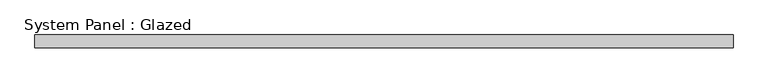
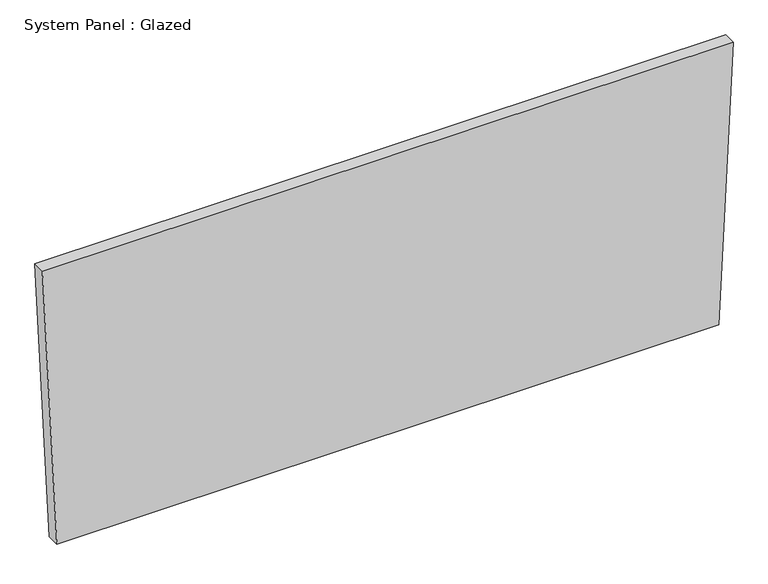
"""IFC4 building model written with IfcOpenShell, lengths in millimetres: plate geometry, System Panel : Glazed."""

import ifcopenshell
import ifcopenshell.guid

model = None  # the IFC model being written
_history = None  # IfcOwnerHistory: only IFC2X3 demands one
_inside = {}  # id of a spatial element -> (the spatial element, [elements in it])
_under = {}  # id of a project, library or spatial element -> (it, [spatial elements below it])
_declared = {}  # id of a project -> (the project, [libraries it declares])
_typed = {}  # id of a type object -> (the type object, [elements of that type])
_made_of = {}  # id of a material, layer set ... -> (it, [elements and type objects made of it])


def new_model(schema):
    """Start an empty IFC model of exactly this schema.

    Asked for "IFC4X3", IfcOpenShell would pick the latest addendum, in which some entities
    have other attributes; the version numbers below select the first issue.
    IFC2X3 requires an IfcOwnerHistory on every rooted entity: one is made here for all.
    """
    global model, _history
    if schema == "IFC4X3":
        model = ifcopenshell.file(schema_version=(4, 3, 0, 0))
    else:
        model = ifcopenshell.file(schema=schema)
    _inside.clear()
    _under.clear()
    _declared.clear()
    _typed.clear()
    _made_of.clear()
    _history = None
    if model.schema == "IFC2X3":
        org = make("IfcOrganization", Name="unknown")
        user = make(
            "IfcPersonAndOrganization",
            ThePerson=make("IfcPerson", FamilyName="unknown"),
            TheOrganization=org,
        )
        app = make(
            "IfcApplication",
            ApplicationDeveloper=org,
            Version="unknown",
            ApplicationFullName="unknown",
            ApplicationIdentifier="unknown",
        )
        _history = make(
            "IfcOwnerHistory",
            OwningUser=user,
            OwningApplication=app,
            ChangeAction="ADDED",
            CreationDate=0,
        )
    return model


def make(cls, **values):
    """One entity of the class cls with the attributes given. An attribute that is None is left unset."""
    return model.create_entity(
        cls, **{name: value for name, value in values.items() if value is not None}
    )


def rooted(cls, **values):
    """An entity with a GlobalId (a new one), such as an element, a storey or a relation."""
    return make(cls, GlobalId=ifcopenshell.guid.new(), OwnerHistory=_history, **values)


def si_unit(unit_type, name, prefix=None):
    """IfcSIUnit, for example si_unit("LENGTHUNIT", "METRE", prefix="MILLI")."""
    return make("IfcSIUnit", UnitType=unit_type, Prefix=prefix, Name=name)


def assignment(units):
    """IfcUnitAssignment: the units of a project."""
    return None if units is None else make("IfcUnitAssignment", Units=units)


def point(xyz):
    """IfcCartesianPoint."""
    return None if xyz is None else make("IfcCartesianPoint", Coordinates=xyz)


def direction(xyz):
    """IfcDirection."""
    return None if xyz is None else make("IfcDirection", DirectionRatios=xyz)


def frame(location, z_axis=None, x_axis=None):
    """IfcAxis2Placement3D, a coordinate frame: its origin and axes. An axis left out is left unset."""
    return make(
        "IfcAxis2Placement3D",
        Location=point(location),
        Axis=direction(z_axis),
        RefDirection=direction(x_axis),
    )


def origin():
    """The frame at (0, 0, 0) with its axes left unset."""
    return frame((0.0, 0.0, 0.0))


def place(relative_to, where):
    """IfcLocalPlacement: puts the frame where relative to a parent placement (None: the world)."""
    return make(
        "IfcLocalPlacement", PlacementRelTo=relative_to, RelativePlacement=where
    )


def context(
    kind, dimensions, precision=None, world=None, true_north=None, identifier=None
):
    """IfcGeometricRepresentationContext, for example the 3D "Model" context."""
    return make(
        "IfcGeometricRepresentationContext",
        ContextIdentifier=identifier,
        ContextType=kind,
        CoordinateSpaceDimension=dimensions,
        Precision=precision,
        WorldCoordinateSystem=world,
        TrueNorth=true_north,
    )


def project(units=None, contexts=None):
    """IfcProject with its units and contexts."""
    return rooted(
        "IfcProject",
        Name="project",
        RepresentationContexts=contexts,
        UnitsInContext=assignment(units),
    )


def spatial(cls, under=None, at=None, **own):
    """A site, building, storey or space (cls), placed at a placement, below another one or the project."""
    s = rooted(cls, ObjectPlacement=at, **own)
    if under is not None:
        _under.setdefault(under.id(), (under, []))[1].append(s)
    return s


def polyline(points):
    """IfcPolyline through the points."""
    return make("IfcPolyline", Points=[point(p) for p in points])


def outline(outer, holes=None, kind="AREA"):
    """IfcArbitraryClosedProfileDef: a profile drawn as a closed curve; with holes, ...WithVoids."""
    if holes is None:
        return make("IfcArbitraryClosedProfileDef", ProfileType=kind, OuterCurve=outer)
    return make(
        "IfcArbitraryProfileDefWithVoids",
        ProfileType=kind,
        OuterCurve=outer,
        InnerCurves=holes,
    )


def extrude(swept, where, along, depth):
    """IfcExtrudedAreaSolid: the profile swept, set in the frame where, extruded along a direction by depth."""
    return make(
        "IfcExtrudedAreaSolid",
        SweptArea=swept,
        Position=where,
        ExtrudedDirection=direction(along),
        Depth=depth,
    )


def shape(context_of_items, identifier, shape_type, items):
    """IfcShapeRepresentation: the items that make up one representation, for example the "Body"."""
    return make(
        "IfcShapeRepresentation",
        ContextOfItems=context_of_items,
        RepresentationIdentifier=identifier,
        RepresentationType=shape_type,
        Items=items,
    )


def source(mapping_origin, context_of_items, identifier, shape_type, items):
    """IfcRepresentationMap: a shape defined once, which mapped items show again and again."""
    return make(
        "IfcRepresentationMap",
        MappingOrigin=mapping_origin,
        MappedRepresentation=shape(context_of_items, identifier, shape_type, items),
    )


def transform(
    local_origin,
    x_axis=None,
    y_axis=None,
    z_axis=None,
    scale=None,
    scale2=None,
    scale3=None,
    uniform=True,
):
    """IfcCartesianTransformationOperator3D, or its non-uniform kind. x_axis, y_axis, z_axis: its Axis1, 2, 3."""
    if uniform:
        return make(
            "IfcCartesianTransformationOperator3D",
            Axis1=direction(x_axis),
            Axis2=direction(y_axis),
            LocalOrigin=point(local_origin),
            Scale=scale,
            Axis3=direction(z_axis),
        )
    return make(
        "IfcCartesianTransformationOperator3DnonUniform",
        Axis1=direction(x_axis),
        Axis2=direction(y_axis),
        LocalOrigin=point(local_origin),
        Scale=scale,
        Axis3=direction(z_axis),
        Scale2=scale2,
        Scale3=scale3,
    )


def mapped(mapping_source, mapping_target):
    """IfcMappedItem: shows the shape of a source again, moved by a transform."""
    return make(
        "IfcMappedItem", MappingSource=mapping_source, MappingTarget=mapping_target
    )


def made_of(thing, what):
    """Note that an element or type object is made of a material, layer set ...; save() writes the relation."""
    if what is not None:
        _made_of.setdefault(what.id(), (what, []))[1].append(thing)
    return thing


def element(
    cls,
    number,
    at=None,
    inside=None,
    cuts=None,
    type_object=None,
    material=None,
    context=None,
    identifier="Body",
    shape_type=None,
    held_by="IfcProductDefinitionShape",
    body=None,
    shapes=None,
    **own,
):
    """One element of the class cls, such as IfcWall. Its Tag is "e" and its number.

    at: its placement. inside: the storey or other place that contains it. cuts: it is an
    opening in that element (IfcRelVoidsElement). A single representation is given by context,
    identifier, shape_type and body (its items); several are given by shapes. held_by: the class
    of the entity that holds the representations. save() writes the other relations.
    """
    e = rooted(cls, Tag="e%d" % number, ObjectPlacement=at, **own)
    if body is not None:
        shapes = [shape(context, identifier, shape_type, body)]
    if shapes is not None:
        e.Representation = make(held_by, Representations=shapes)
    if inside is not None:
        _inside.setdefault(inside.id(), (inside, []))[1].append(e)
    if cuts is not None:
        rooted(
            "IfcRelVoidsElement", RelatingBuildingElement=cuts, RelatedOpeningElement=e
        )
    if type_object is not None:
        _typed.setdefault(type_object.id(), (type_object, []))[1].append(e)
    return made_of(e, material)


def aggregate(whole, parts):
    """IfcRelAggregates: a whole, such as a stair, and the parts it consists of."""
    return rooted("IfcRelAggregates", RelatingObject=whole, RelatedObjects=parts)


def save(model, path):
    """Write the relations noted so far, then the file.

    IfcRelAggregates (storeys below a building ...), IfcRelContainedInSpatialStructure (elements
    in a storey), IfcRelDefinesByType, IfcRelAssociatesMaterial and IfcRelDeclares: one each for
    every whole, place, type object, material and project.
    """
    for whole, parts in _under.values():
        aggregate(whole, parts)
    for where, things in _inside.values():
        rooted(
            "IfcRelContainedInSpatialStructure",
            RelatedElements=things,
            RelatingStructure=where,
        )
    for kind, things in _typed.values():
        rooted("IfcRelDefinesByType", RelatedObjects=things, RelatingType=kind)
    for what, things in _made_of.values():
        rooted("IfcRelAssociatesMaterial", RelatedObjects=things, RelatingMaterial=what)
    for by, libraries in _declared.values():
        rooted("IfcRelDeclares", RelatingContext=by, RelatedDefinitions=libraries)
    model.write(path)


def system_panel_glazed_f8bcb114(model_context):
    return source(origin(), model_context, "Body", "SweptSolid", [
        extrude(outline(polyline([(0.0, -657.3522433), (0.0, 657.3522433), (583.4620483, 686.0874075), (583.4620483, -686.0874075), (0.0, -657.3522433)])), frame((0.0, -44.45, 0.0), z_axis=(0.0, 1.0, 0.0), x_axis=(0.0, 0.0, 1.0)), (0.0, 0.0, 1.0), 25.4),
    ])


if __name__ == "__main__":
    model = new_model("IFC4")
    model_context = context("Model", 3, world=origin())
    ifc_project = project(units=[si_unit("LENGTHUNIT", "METRE", prefix="MILLI")], contexts=[model_context])
    site = spatial("IfcSite", under=ifc_project)
    building = spatial("IfcBuilding", under=site)
    placement = place(None, origin())
    system_panel_glazed_shape = system_panel_glazed_f8bcb114(model_context)
    element("IfcPlate", 1, ObjectType="System Panel : Glazed", at=placement, inside=building, context=model_context, shape_type="MappedRepresentation", body=[
        mapped(system_panel_glazed_shape, transform((0.0, 0.0, 0.0), x_axis=(1.0, 0.0, 0.0), y_axis=(0.0, 1.0, 0.0), z_axis=(0.0, 0.0, 1.0))),
    ])
    save(model, "model.ifc")
